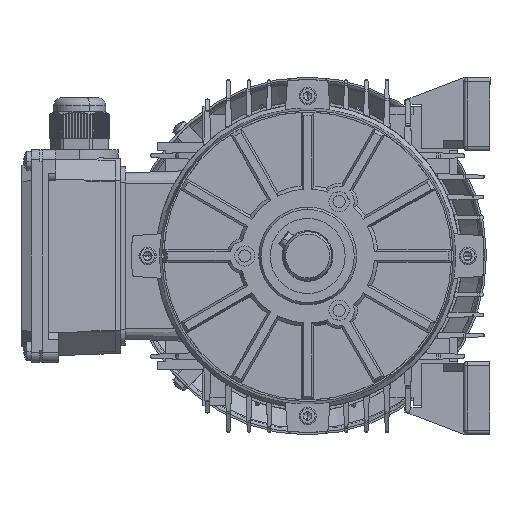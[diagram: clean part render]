
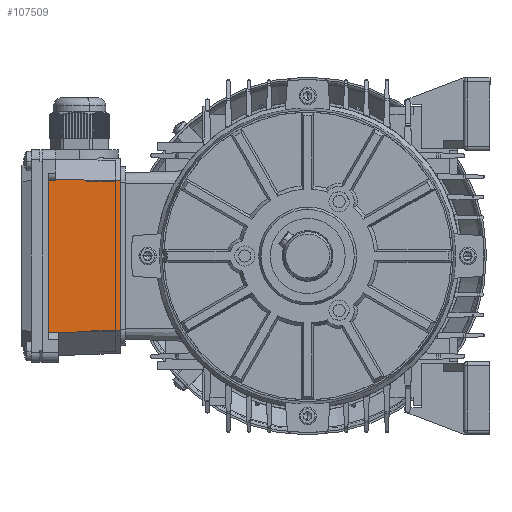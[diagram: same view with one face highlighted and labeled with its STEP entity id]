
A CAD part, left-side view. The second image highlights one B-rep face of the part: STEP entity #107509.
In plain terms, the highlighted planar face has unit normal (-0.999, -0.035, 0.001) as drawn and (-0.035, -0.001, 0.999) by its records, which use the part's own axes.
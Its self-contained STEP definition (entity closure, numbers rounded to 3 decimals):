
#765 = EDGE_LOOP ( 'NONE', ( #20039, #66078, #55100, #56639, #75414, #16173, #107949, #82572 ) ) ;
#968 = CARTESIAN_POINT ( 'NONE',  ( 31.875, -37.099, 49.107 ) ) ;
#2087 = VERTEX_POINT ( 'NONE', #111492 ) ;
#3728 = CARTESIAN_POINT ( 'NONE',  ( 35.5, 37.901, 49.325 ) ) ;
#5815 = CARTESIAN_POINT ( 'NONE',  ( 30.5, 37.767, 49.151 ) ) ;
#6052 = LINE ( 'NONE', #61129, #83825 ) ;
#7063 = VECTOR ( 'NONE', #74393, 1000. ) ;
#10020 = VERTEX_POINT ( 'NONE', #32277 ) ;
#10405 = VECTOR ( 'NONE', #81068, 1000. ) ;
#15957 = EDGE_CURVE ( 'NONE', #48901, #10020, #6052, .T. ) ;
#16173 = ORIENTED_EDGE ( 'NONE', *, *, #80128, .F. ) ;
#19302 = VERTEX_POINT ( 'NONE', #5815 ) ;
#20039 = ORIENTED_EDGE ( 'NONE', *, *, #31946, .F. ) ;
#21113 = VERTEX_POINT ( 'NONE', #72391 ) ;
#21645 = DIRECTION ( 'NONE',  ( 0., -1., -0.001 ) ) ;
#23957 = DIRECTION ( 'NONE',  ( -0.999, 0., -0.035 ) ) ;
#25109 = VECTOR ( 'NONE', #70977, 1000. ) ;
#27009 = VERTEX_POINT ( 'NONE', #80188 ) ;
#31946 = EDGE_CURVE ( 'NONE', #27009, #48901, #82025, .T. ) ;
#32277 = CARTESIAN_POINT ( 'NONE',  ( 35.5, -37.116, 49.234 ) ) ;
#33191 = CARTESIAN_POINT ( 'NONE',  ( 31.875, -49.393, 49.092 ) ) ;
#34575 = EDGE_CURVE ( 'NONE', #2087, #19302, #103936, .T. ) ;
#35508 = DIRECTION ( 'NONE',  ( 0.035, 0.001, -0.999 ) ) ;
#39135 = CARTESIAN_POINT ( 'NONE',  ( 0., -37.04, 47.995 ) ) ;
#47028 = CARTESIAN_POINT ( 'NONE',  ( 43.553, -49.393, 49.5 ) ) ;
#48901 = VERTEX_POINT ( 'NONE', #3728 ) ;
#49485 = VECTOR ( 'NONE', #59159, 1000. ) ;
#49596 = DIRECTION ( 'NONE',  ( 0., -1., -0.001 ) ) ;
#54793 = FACE_OUTER_BOUND ( 'NONE', #765, .T. ) ;
#55100 = ORIENTED_EDGE ( 'NONE', *, *, #34575, .F. ) ;
#56200 = DIRECTION ( 'NONE',  ( 0., -1., -0.001 ) ) ;
#56278 = LINE ( 'NONE', #33191, #75329 ) ;
#56639 = ORIENTED_EDGE ( 'NONE', *, *, #108955, .T. ) ;
#57668 = AXIS2_PLACEMENT_3D ( 'NONE', #47028, #35508, #23957 ) ;
#58563 = PLANE ( 'NONE',  #57668 ) ;
#59159 = DIRECTION ( 'NONE',  ( 0.999, 0.035, 0.035 ) ) ;
#59525 = EDGE_CURVE ( 'NONE', #87412, #10020, #91300, .T. ) ;
#61129 = CARTESIAN_POINT ( 'NONE',  ( 35.5, -49.393, 49.219 ) ) ;
#63770 = CARTESIAN_POINT ( 'NONE',  ( 31.875, -37.099, 49.107 ) ) ;
#64037 = EDGE_CURVE ( 'NONE', #19302, #27009, #79056, .T. ) ;
#66078 = ORIENTED_EDGE ( 'NONE', *, *, #64037, .F. ) ;
#67641 = CARTESIAN_POINT ( 'NONE',  ( 30.5, -49.393, 49.044 ) ) ;
#68364 = EDGE_CURVE ( 'NONE', #21113, #77634, #97247, .T. ) ;
#70564 = CARTESIAN_POINT ( 'NONE',  ( 40.497, 38.076, 49.5 ) ) ;
#70977 = DIRECTION ( 'NONE',  ( 0., -1., -0.001 ) ) ;
#72391 = CARTESIAN_POINT ( 'NONE',  ( 31.875, -37.897, 49.106 ) ) ;
#74393 = DIRECTION ( 'NONE',  ( -0.999, 0.027, -0.035 ) ) ;
#75329 = VECTOR ( 'NONE', #21645, 1000. ) ;
#75414 = ORIENTED_EDGE ( 'NONE', *, *, #68364, .F. ) ;
#77634 = VERTEX_POINT ( 'NONE', #39135 ) ;
#78945 = CARTESIAN_POINT ( 'NONE',  ( 35.5, -37.116, 49.234 ) ) ;
#79056 = LINE ( 'NONE', #67641, #110636 ) ;
#80128 = EDGE_CURVE ( 'NONE', #87412, #21113, #56278, .T. ) ;
#80188 = CARTESIAN_POINT ( 'NONE',  ( 30.5, 37.727, 49.151 ) ) ;
#81068 = DIRECTION ( 'NONE',  ( 0.999, 0.027, 0.035 ) ) ;
#82025 = LINE ( 'NONE', #70564, #49485 ) ;
#82442 = CARTESIAN_POINT ( 'NONE',  ( 0., 87.477, 48.147 ) ) ;
#82572 = ORIENTED_EDGE ( 'NONE', *, *, #15957, .F. ) ;
#83825 = VECTOR ( 'NONE', #49596, 1000. ) ;
#85836 = CARTESIAN_POINT ( 'NONE',  ( 40.501, -38.128, 49.407 ) ) ;
#87412 = VERTEX_POINT ( 'NONE', #63770 ) ;
#90313 = CARTESIAN_POINT ( 'NONE',  ( 34.294, -37.11, 49.192 ) ) ;
#91300 =( BOUNDED_CURVE ( )  B_SPLINE_CURVE ( 3, ( #968, #101788, #90313, #78945 ),
 .UNSPECIFIED., .F., .F. ) 
 B_SPLINE_CURVE_WITH_KNOTS ( ( 4, 4 ),
 ( 1.693, 1.726 ),
 .UNSPECIFIED. ) 
 CURVE ( )  GEOMETRIC_REPRESENTATION_ITEM ( )  RATIONAL_B_SPLINE_CURVE ( ( 1., 1., 1., 1. ) ) 
 REPRESENTATION_ITEM ( '' )  );
#92457 = CARTESIAN_POINT ( 'NONE',  ( 40.5, 38.036, 49.5 ) ) ;
#93819 = LINE ( 'NONE', #82442, #25109 ) ;
#97247 = LINE ( 'NONE', #85836, #7063 ) ;
#101788 = CARTESIAN_POINT ( 'NONE',  ( 33.086, -37.104, 49.15 ) ) ;
#103936 = LINE ( 'NONE', #92457, #10405 ) ;
#107509 = ADVANCED_FACE ( 'NONE', ( #54793 ), #58563, .F. ) ;
#107949 = ORIENTED_EDGE ( 'NONE', *, *, #59525, .T. ) ;
#108955 = EDGE_CURVE ( 'NONE', #2087, #77634, #93819, .T. ) ;
#110636 = VECTOR ( 'NONE', #56200, 1000. ) ;
#111492 = CARTESIAN_POINT ( 'NONE',  ( 0., 36.95, 48.085 ) ) ;
